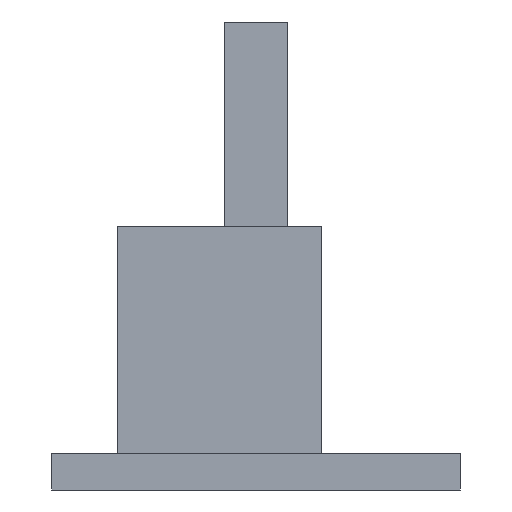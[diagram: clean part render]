
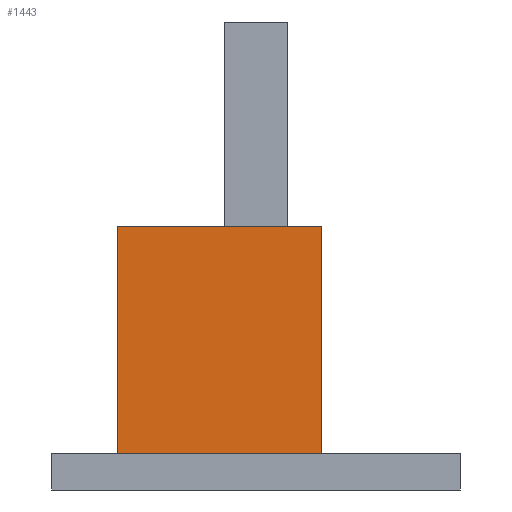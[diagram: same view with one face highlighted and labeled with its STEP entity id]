
A CAD part, left-side view. The second image highlights one B-rep face of the part: STEP entity #1443.
In plain terms, the highlighted planar face has unit normal (-1, 0, 0).
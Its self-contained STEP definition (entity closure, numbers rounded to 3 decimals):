
#126 = PLANE('',#127);
#127 = AXIS2_PLACEMENT_3D('',#128,#129,#130);
#128 = CARTESIAN_POINT('',(-60.,-45.,8.));
#129 = DIRECTION('',(0.,0.,1.));
#130 = DIRECTION('',(1.,0.,0.));
#520 = VERTEX_POINT('',#521);
#521 = CARTESIAN_POINT('',(-52.,-14.5,8.));
#535 = PLANE('',#536);
#536 = AXIS2_PLACEMENT_3D('',#537,#538,#539);
#537 = CARTESIAN_POINT('',(-52.,-14.5,8.));
#538 = DIRECTION('',(0.,1.,0.));
#539 = DIRECTION('',(0.,0.,1.));
#547 = EDGE_CURVE('',#520,#548,#550,.T.);
#548 = VERTEX_POINT('',#549);
#549 = CARTESIAN_POINT('',(-52.,30.5,8.));
#550 = SURFACE_CURVE('',#551,(#555,#562),.PCURVE_S1.);
#551 = LINE('',#552,#553);
#552 = CARTESIAN_POINT('',(-52.,-14.5,8.));
#553 = VECTOR('',#554,1.);
#554 = DIRECTION('',(0.,1.,0.));
#555 = PCURVE('',#126,#556);
#556 = DEFINITIONAL_REPRESENTATION('',(#557),#561);
#557 = LINE('',#558,#559);
#558 = CARTESIAN_POINT('',(8.,30.5));
#559 = VECTOR('',#560,1.);
#560 = DIRECTION('',(0.,1.));
#561 = ( GEOMETRIC_REPRESENTATION_CONTEXT(2) 
PARAMETRIC_REPRESENTATION_CONTEXT() REPRESENTATION_CONTEXT('2D SPACE',''
  ) );
#562 = PCURVE('',#563,#568);
#563 = PLANE('',#564);
#564 = AXIS2_PLACEMENT_3D('',#565,#566,#567);
#565 = CARTESIAN_POINT('',(-52.,-14.5,8.));
#566 = DIRECTION('',(1.,0.,0.));
#567 = DIRECTION('',(0.,0.,1.));
#568 = DEFINITIONAL_REPRESENTATION('',(#569),#573);
#569 = LINE('',#570,#571);
#570 = CARTESIAN_POINT('',(0.,0.));
#571 = VECTOR('',#572,1.);
#572 = DIRECTION('',(0.,-1.));
#573 = ( GEOMETRIC_REPRESENTATION_CONTEXT(2) 
PARAMETRIC_REPRESENTATION_CONTEXT() REPRESENTATION_CONTEXT('2D SPACE',''
  ) );
#589 = PLANE('',#590);
#590 = AXIS2_PLACEMENT_3D('',#591,#592,#593);
#591 = CARTESIAN_POINT('',(-52.,30.5,8.));
#592 = DIRECTION('',(0.,1.,0.));
#593 = DIRECTION('',(0.,0.,1.));
#975 = PLANE('',#976);
#976 = AXIS2_PLACEMENT_3D('',#977,#978,#979);
#977 = CARTESIAN_POINT('',(-52.,-14.5,58.));
#978 = DIRECTION('',(0.,0.,1.));
#979 = DIRECTION('',(1.,0.,0.));
#1350 = EDGE_CURVE('',#548,#1351,#1353,.T.);
#1351 = VERTEX_POINT('',#1352);
#1352 = CARTESIAN_POINT('',(-52.,30.5,58.));
#1353 = SURFACE_CURVE('',#1354,(#1358,#1365),.PCURVE_S1.);
#1354 = LINE('',#1355,#1356);
#1355 = CARTESIAN_POINT('',(-52.,30.5,8.));
#1356 = VECTOR('',#1357,1.);
#1357 = DIRECTION('',(0.,0.,1.));
#1358 = PCURVE('',#589,#1359);
#1359 = DEFINITIONAL_REPRESENTATION('',(#1360),#1364);
#1360 = LINE('',#1361,#1362);
#1361 = CARTESIAN_POINT('',(0.,0.));
#1362 = VECTOR('',#1363,1.);
#1363 = DIRECTION('',(1.,0.));
#1364 = ( GEOMETRIC_REPRESENTATION_CONTEXT(2) 
PARAMETRIC_REPRESENTATION_CONTEXT() REPRESENTATION_CONTEXT('2D SPACE',''
  ) );
#1365 = PCURVE('',#563,#1366);
#1366 = DEFINITIONAL_REPRESENTATION('',(#1367),#1371);
#1367 = LINE('',#1368,#1369);
#1368 = CARTESIAN_POINT('',(0.,-45.));
#1369 = VECTOR('',#1370,1.);
#1370 = DIRECTION('',(1.,0.));
#1371 = ( GEOMETRIC_REPRESENTATION_CONTEXT(2) 
PARAMETRIC_REPRESENTATION_CONTEXT() REPRESENTATION_CONTEXT('2D SPACE',''
  ) );
#1443 = ADVANCED_FACE('',(#1444),#563,.F.);
#1444 = FACE_BOUND('',#1445,.F.);
#1445 = EDGE_LOOP('',(#1446,#1469,#1470,#1471));
#1446 = ORIENTED_EDGE('',*,*,#1447,.F.);
#1447 = EDGE_CURVE('',#520,#1448,#1450,.T.);
#1448 = VERTEX_POINT('',#1449);
#1449 = CARTESIAN_POINT('',(-52.,-14.5,58.));
#1450 = SURFACE_CURVE('',#1451,(#1455,#1462),.PCURVE_S1.);
#1451 = LINE('',#1452,#1453);
#1452 = CARTESIAN_POINT('',(-52.,-14.5,8.));
#1453 = VECTOR('',#1454,1.);
#1454 = DIRECTION('',(0.,0.,1.));
#1455 = PCURVE('',#563,#1456);
#1456 = DEFINITIONAL_REPRESENTATION('',(#1457),#1461);
#1457 = LINE('',#1458,#1459);
#1458 = CARTESIAN_POINT('',(0.,0.));
#1459 = VECTOR('',#1460,1.);
#1460 = DIRECTION('',(1.,0.));
#1461 = ( GEOMETRIC_REPRESENTATION_CONTEXT(2) 
PARAMETRIC_REPRESENTATION_CONTEXT() REPRESENTATION_CONTEXT('2D SPACE',''
  ) );
#1462 = PCURVE('',#535,#1463);
#1463 = DEFINITIONAL_REPRESENTATION('',(#1464),#1468);
#1464 = LINE('',#1465,#1466);
#1465 = CARTESIAN_POINT('',(0.,0.));
#1466 = VECTOR('',#1467,1.);
#1467 = DIRECTION('',(1.,0.));
#1468 = ( GEOMETRIC_REPRESENTATION_CONTEXT(2) 
PARAMETRIC_REPRESENTATION_CONTEXT() REPRESENTATION_CONTEXT('2D SPACE',''
  ) );
#1469 = ORIENTED_EDGE('',*,*,#547,.T.);
#1470 = ORIENTED_EDGE('',*,*,#1350,.T.);
#1471 = ORIENTED_EDGE('',*,*,#1472,.F.);
#1472 = EDGE_CURVE('',#1448,#1351,#1473,.T.);
#1473 = SURFACE_CURVE('',#1474,(#1478,#1485),.PCURVE_S1.);
#1474 = LINE('',#1475,#1476);
#1475 = CARTESIAN_POINT('',(-52.,-14.5,58.));
#1476 = VECTOR('',#1477,1.);
#1477 = DIRECTION('',(0.,1.,0.));
#1478 = PCURVE('',#563,#1479);
#1479 = DEFINITIONAL_REPRESENTATION('',(#1480),#1484);
#1480 = LINE('',#1481,#1482);
#1481 = CARTESIAN_POINT('',(50.,0.));
#1482 = VECTOR('',#1483,1.);
#1483 = DIRECTION('',(0.,-1.));
#1484 = ( GEOMETRIC_REPRESENTATION_CONTEXT(2) 
PARAMETRIC_REPRESENTATION_CONTEXT() REPRESENTATION_CONTEXT('2D SPACE',''
  ) );
#1485 = PCURVE('',#975,#1486);
#1486 = DEFINITIONAL_REPRESENTATION('',(#1487),#1491);
#1487 = LINE('',#1488,#1489);
#1488 = CARTESIAN_POINT('',(0.,0.));
#1489 = VECTOR('',#1490,1.);
#1490 = DIRECTION('',(0.,1.));
#1491 = ( GEOMETRIC_REPRESENTATION_CONTEXT(2) 
PARAMETRIC_REPRESENTATION_CONTEXT() REPRESENTATION_CONTEXT('2D SPACE',''
  ) );
